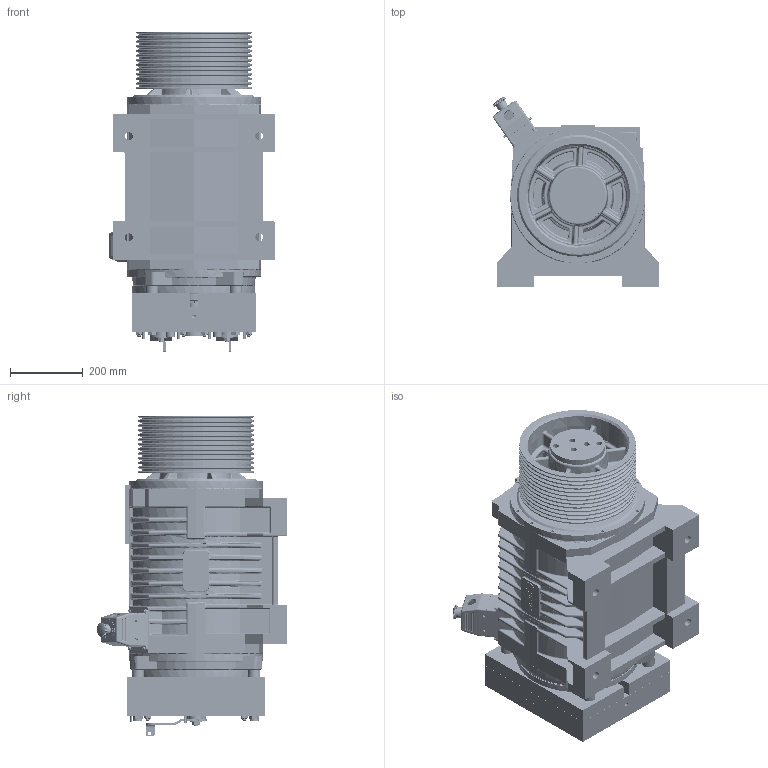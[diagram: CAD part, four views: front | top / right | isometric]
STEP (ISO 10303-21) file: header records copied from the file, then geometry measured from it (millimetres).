
FILE_DESCRIPTION (( 'STEP AP214' ), '1' );
FILE_NAME ('QS632375100.STEP', '2026-01-14T08:06:15', ( '' ), ( '' ), 'SwSTEP 2.0', 'SolidWorks 2023', '' );
FILE_SCHEMA (( 'AUTOMOTIVE_DESIGN' ));
Length unit declared in the file: millimetre
Products named in the file (1): QS632375100
Bounding box: 456.62 x 522.09 x 881.08 mm (x, y, z)
Surface area: 4087177.4 mm2 (no closed solid volume)
Topology: 0 solids, 38 shells, 8107 faces, 20687 edges, 12854 vertices
Faces by surface type: plane 3950, cylinder 1898, bspline 853, cone 710, sphere 358, torus 338
Entity records: 302308 total; most frequent: CARTESIAN_POINT 119879, ORIENTED_EDGE 40822, DIRECTION 33657, EDGE_CURVE 20494, VERTEX_POINT 12854, AXIS2_PLACEMENT_3D 11965, VECTOR 9727, LINE 9727
